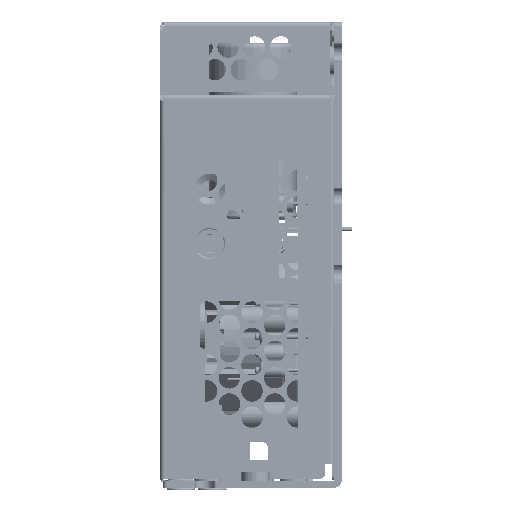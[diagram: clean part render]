
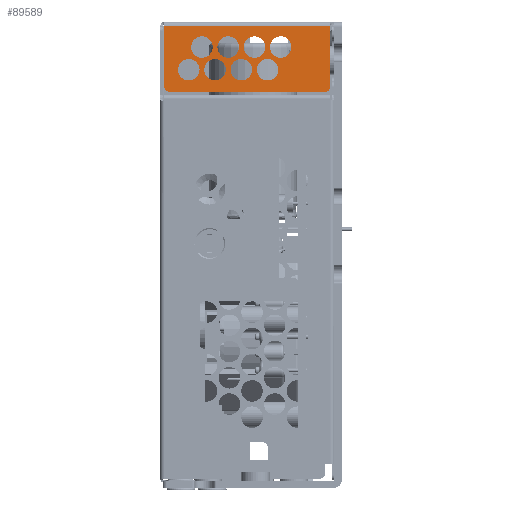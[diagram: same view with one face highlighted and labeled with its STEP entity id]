
A CAD part, left-side view. The second image highlights one B-rep face of the part: STEP entity #89589.
In plain terms, the highlighted planar face has unit normal (-1, 0, 0) as drawn and (0, 1, 0) by its records, which use the part's own axes.
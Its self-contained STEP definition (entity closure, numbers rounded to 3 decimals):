
#71130=DIRECTION('',(0.,0.,-1.));
#71131=VECTOR('',#71130,34.7);
#71132=CARTESIAN_POINT('',(95.,72.,35.6));
#71133=LINE('',#71132,#71131);
#71158=CARTESIAN_POINT('',(82.3,72.,1.9));
#71159=DIRECTION('',(0.,1.,0.));
#71160=DIRECTION('',(0.,0.,-1.));
#71161=AXIS2_PLACEMENT_3D('',#71158,#71159,#71160);
#71163=DIRECTION('',(-1.,0.,0.));
#71164=VECTOR('',#71163,12.4);
#71165=CARTESIAN_POINT('',(94.7,72.,0.9));
#71166=LINE('',#71165,#71164);
#71167=DIRECTION('',(-1.,0.,0.));
#71168=VECTOR('',#71167,0.3);
#71169=CARTESIAN_POINT('',(95.,72.,0.9));
#71170=LINE('',#71169,#71168);
#71171=DIRECTION('',(-1.,0.,0.));
#71172=VECTOR('',#71171,0.129);
#71173=CARTESIAN_POINT('',(95.,72.,35.6));
#71174=LINE('',#71173,#71172);
#71175=DIRECTION('',(1.,0.,0.));
#71176=VECTOR('',#71175,12.571);
#71177=CARTESIAN_POINT('',(82.3,72.,35.6));
#71178=LINE('',#71177,#71176);
#71179=CARTESIAN_POINT('',(82.3,72.,34.6));
#71180=DIRECTION('',(0.,1.,0.));
#71181=DIRECTION('',(-1.,0.,0.));
#71182=AXIS2_PLACEMENT_3D('',#71179,#71180,#71181);
#71184=DIRECTION('',(0.,0.,1.));
#71185=VECTOR('',#71184,32.7);
#71186=CARTESIAN_POINT('',(81.3,72.,1.9));
#71187=LINE('',#71186,#71185);
#71188=CARTESIAN_POINT('',(85.9,72.,6.));
#71189=DIRECTION('',(0.,1.,0.));
#71190=DIRECTION('',(-1.,0.,0.));
#71191=AXIS2_PLACEMENT_3D('',#71188,#71189,#71190);
#71193=CARTESIAN_POINT('',(85.9,72.,6.));
#71194=DIRECTION('',(0.,1.,0.));
#71195=DIRECTION('',(1.,0.,0.));
#71196=AXIS2_PLACEMENT_3D('',#71193,#71194,#71195);
#71198=CARTESIAN_POINT('',(85.9,72.,11.5));
#71199=DIRECTION('',(0.,1.,0.));
#71200=DIRECTION('',(-1.,0.,0.));
#71201=AXIS2_PLACEMENT_3D('',#71198,#71199,#71200);
#71203=CARTESIAN_POINT('',(85.9,72.,11.5));
#71204=DIRECTION('',(0.,1.,0.));
#71205=DIRECTION('',(1.,0.,0.));
#71206=AXIS2_PLACEMENT_3D('',#71203,#71204,#71205);
#71208=CARTESIAN_POINT('',(85.9,72.,17.));
#71209=DIRECTION('',(0.,1.,0.));
#71210=DIRECTION('',(-1.,0.,0.));
#71211=AXIS2_PLACEMENT_3D('',#71208,#71209,#71210);
#71213=CARTESIAN_POINT('',(85.9,72.,17.));
#71214=DIRECTION('',(0.,1.,0.));
#71215=DIRECTION('',(1.,0.,0.));
#71216=AXIS2_PLACEMENT_3D('',#71213,#71214,#71215);
#71218=CARTESIAN_POINT('',(85.9,72.,22.5));
#71219=DIRECTION('',(0.,1.,0.));
#71220=DIRECTION('',(-1.,0.,0.));
#71221=AXIS2_PLACEMENT_3D('',#71218,#71219,#71220);
#71223=CARTESIAN_POINT('',(85.9,72.,22.5));
#71224=DIRECTION('',(0.,1.,0.));
#71225=DIRECTION('',(1.,0.,0.));
#71226=AXIS2_PLACEMENT_3D('',#71223,#71224,#71225);
#71228=CARTESIAN_POINT('',(90.65,72.,8.751));
#71229=DIRECTION('',(0.,1.,0.));
#71230=DIRECTION('',(-1.,0.,0.));
#71231=AXIS2_PLACEMENT_3D('',#71228,#71229,#71230);
#71233=CARTESIAN_POINT('',(90.65,72.,8.751));
#71234=DIRECTION('',(0.,1.,0.));
#71235=DIRECTION('',(1.,0.,0.));
#71236=AXIS2_PLACEMENT_3D('',#71233,#71234,#71235);
#71238=CARTESIAN_POINT('',(90.65,72.,14.251));
#71239=DIRECTION('',(0.,1.,0.));
#71240=DIRECTION('',(-1.,0.,0.));
#71241=AXIS2_PLACEMENT_3D('',#71238,#71239,#71240);
#71243=CARTESIAN_POINT('',(90.65,72.,14.251));
#71244=DIRECTION('',(0.,1.,0.));
#71245=DIRECTION('',(1.,0.,0.));
#71246=AXIS2_PLACEMENT_3D('',#71243,#71244,#71245);
#71248=CARTESIAN_POINT('',(90.65,72.,19.751));
#71249=DIRECTION('',(0.,1.,0.));
#71250=DIRECTION('',(-1.,0.,0.));
#71251=AXIS2_PLACEMENT_3D('',#71248,#71249,#71250);
#71253=CARTESIAN_POINT('',(90.65,72.,19.751));
#71254=DIRECTION('',(0.,1.,0.));
#71255=DIRECTION('',(1.,0.,0.));
#71256=AXIS2_PLACEMENT_3D('',#71253,#71254,#71255);
#71258=CARTESIAN_POINT('',(90.65,72.,25.251));
#71259=DIRECTION('',(0.,1.,0.));
#71260=DIRECTION('',(-1.,0.,0.));
#71261=AXIS2_PLACEMENT_3D('',#71258,#71259,#71260);
#71263=CARTESIAN_POINT('',(90.65,72.,25.251));
#71264=DIRECTION('',(0.,1.,0.));
#71265=DIRECTION('',(1.,0.,0.));
#71266=AXIS2_PLACEMENT_3D('',#71263,#71264,#71265);
#74570=CARTESIAN_POINT('',(94.871,72.,35.6));
#74572=VERTEX_POINT('',#74570);
#74604=CARTESIAN_POINT('',(95.,72.,35.6));
#74605=CARTESIAN_POINT('',(95.,72.,0.9));
#74606=VERTEX_POINT('',#74604);
#74607=VERTEX_POINT('',#74605);
#74612=CARTESIAN_POINT('',(94.7,72.,0.9));
#74613=VERTEX_POINT('',#74612);
#74696=CARTESIAN_POINT('',(82.3,72.,0.9));
#74697=VERTEX_POINT('',#74696);
#74698=CARTESIAN_POINT('',(81.3,72.,1.9));
#74699=VERTEX_POINT('',#74698);
#74704=CARTESIAN_POINT('',(81.3,72.,34.6));
#74705=VERTEX_POINT('',#74704);
#74706=CARTESIAN_POINT('',(82.3,72.,35.6));
#74707=VERTEX_POINT('',#74706);
#74844=CARTESIAN_POINT('',(83.65,72.,6.));
#74845=CARTESIAN_POINT('',(88.15,72.,6.));
#74846=VERTEX_POINT('',#74844);
#74847=VERTEX_POINT('',#74845);
#74852=CARTESIAN_POINT('',(83.65,72.,11.5));
#74853=CARTESIAN_POINT('',(88.15,72.,11.5));
#74854=VERTEX_POINT('',#74852);
#74855=VERTEX_POINT('',#74853);
#74860=CARTESIAN_POINT('',(83.65,72.,17.));
#74861=CARTESIAN_POINT('',(88.15,72.,17.));
#74862=VERTEX_POINT('',#74860);
#74863=VERTEX_POINT('',#74861);
#74868=CARTESIAN_POINT('',(83.65,72.,22.5));
#74869=CARTESIAN_POINT('',(88.15,72.,22.5));
#74870=VERTEX_POINT('',#74868);
#74871=VERTEX_POINT('',#74869);
#74876=CARTESIAN_POINT('',(88.4,72.,8.751));
#74877=CARTESIAN_POINT('',(92.9,72.,8.751));
#74878=VERTEX_POINT('',#74876);
#74879=VERTEX_POINT('',#74877);
#74884=CARTESIAN_POINT('',(88.4,72.,14.251));
#74885=CARTESIAN_POINT('',(92.9,72.,14.251));
#74886=VERTEX_POINT('',#74884);
#74887=VERTEX_POINT('',#74885);
#74892=CARTESIAN_POINT('',(88.4,72.,19.751));
#74893=CARTESIAN_POINT('',(92.9,72.,19.751));
#74894=VERTEX_POINT('',#74892);
#74895=VERTEX_POINT('',#74893);
#74900=CARTESIAN_POINT('',(88.4,72.,25.251));
#74901=CARTESIAN_POINT('',(92.9,72.,25.251));
#74902=VERTEX_POINT('',#74900);
#74903=VERTEX_POINT('',#74901);
#89519=CARTESIAN_POINT('',(95.3,72.,27.355));
#89520=DIRECTION('',(0.,1.,0.));
#89521=DIRECTION('',(0.,0.,1.));
#89522=AXIS2_PLACEMENT_3D('',#89519,#89520,#89521);
#89523=PLANE('',#89522);
#89525=ORIENTED_EDGE('',*,*,#89524,.F.);
#89527=ORIENTED_EDGE('',*,*,#89526,.F.);
#89529=ORIENTED_EDGE('',*,*,#89528,.F.);
#89530=ORIENTED_EDGE('',*,*,#89506,.F.);
#89532=ORIENTED_EDGE('',*,*,#89531,.T.);
#89534=ORIENTED_EDGE('',*,*,#89533,.F.);
#89536=ORIENTED_EDGE('',*,*,#89535,.F.);
#89538=ORIENTED_EDGE('',*,*,#89537,.F.);
#89539=EDGE_LOOP('',(#89525,#89527,#89529,#89530,#89532,#89534,#89536,#89538));
#89540=FACE_OUTER_BOUND('',#89539,.F.);
#89542=ORIENTED_EDGE('',*,*,#89541,.T.);
#89544=ORIENTED_EDGE('',*,*,#89543,.T.);
#89545=EDGE_LOOP('',(#89542,#89544));
#89546=FACE_BOUND('',#89545,.F.);
#89548=ORIENTED_EDGE('',*,*,#89547,.T.);
#89550=ORIENTED_EDGE('',*,*,#89549,.T.);
#89551=EDGE_LOOP('',(#89548,#89550));
#89552=FACE_BOUND('',#89551,.F.);
#89554=ORIENTED_EDGE('',*,*,#89553,.T.);
#89556=ORIENTED_EDGE('',*,*,#89555,.T.);
#89557=EDGE_LOOP('',(#89554,#89556));
#89558=FACE_BOUND('',#89557,.F.);
#89560=ORIENTED_EDGE('',*,*,#89559,.T.);
#89562=ORIENTED_EDGE('',*,*,#89561,.T.);
#89563=EDGE_LOOP('',(#89560,#89562));
#89564=FACE_BOUND('',#89563,.F.);
#89566=ORIENTED_EDGE('',*,*,#89565,.T.);
#89568=ORIENTED_EDGE('',*,*,#89567,.T.);
#89569=EDGE_LOOP('',(#89566,#89568));
#89570=FACE_BOUND('',#89569,.F.);
#89572=ORIENTED_EDGE('',*,*,#89571,.T.);
#89574=ORIENTED_EDGE('',*,*,#89573,.T.);
#89575=EDGE_LOOP('',(#89572,#89574));
#89576=FACE_BOUND('',#89575,.F.);
#89578=ORIENTED_EDGE('',*,*,#89577,.T.);
#89580=ORIENTED_EDGE('',*,*,#89579,.T.);
#89581=EDGE_LOOP('',(#89578,#89580));
#89582=FACE_BOUND('',#89581,.F.);
#89584=ORIENTED_EDGE('',*,*,#89583,.T.);
#89586=ORIENTED_EDGE('',*,*,#89585,.T.);
#89587=EDGE_LOOP('',(#89584,#89586));
#89588=FACE_BOUND('',#89587,.F.);
#71162=CIRCLE('',#71161,1.);
#71183=CIRCLE('',#71182,1.);
#71192=CIRCLE('',#71191,2.25);
#71197=CIRCLE('',#71196,2.25);
#71202=CIRCLE('',#71201,2.25);
#71207=CIRCLE('',#71206,2.25);
#71212=CIRCLE('',#71211,2.25);
#71217=CIRCLE('',#71216,2.25);
#71222=CIRCLE('',#71221,2.25);
#71227=CIRCLE('',#71226,2.25);
#71232=CIRCLE('',#71231,2.25);
#71237=CIRCLE('',#71236,2.25);
#71242=CIRCLE('',#71241,2.25);
#71247=CIRCLE('',#71246,2.25);
#71252=CIRCLE('',#71251,2.25);
#71257=CIRCLE('',#71256,2.25);
#71262=CIRCLE('',#71261,2.25);
#71267=CIRCLE('',#71266,2.25);
#89506=EDGE_CURVE('',#74606,#74607,#71133,.T.);
#89524=EDGE_CURVE('',#74697,#74699,#71162,.T.);
#89526=EDGE_CURVE('',#74613,#74697,#71166,.T.);
#89528=EDGE_CURVE('',#74607,#74613,#71170,.T.);
#89531=EDGE_CURVE('',#74606,#74572,#71174,.T.);
#89533=EDGE_CURVE('',#74707,#74572,#71178,.T.);
#89535=EDGE_CURVE('',#74705,#74707,#71183,.T.);
#89537=EDGE_CURVE('',#74699,#74705,#71187,.T.);
#89541=EDGE_CURVE('',#74846,#74847,#71192,.T.);
#89543=EDGE_CURVE('',#74847,#74846,#71197,.T.);
#89547=EDGE_CURVE('',#74854,#74855,#71202,.T.);
#89549=EDGE_CURVE('',#74855,#74854,#71207,.T.);
#89553=EDGE_CURVE('',#74862,#74863,#71212,.T.);
#89555=EDGE_CURVE('',#74863,#74862,#71217,.T.);
#89559=EDGE_CURVE('',#74870,#74871,#71222,.T.);
#89561=EDGE_CURVE('',#74871,#74870,#71227,.T.);
#89565=EDGE_CURVE('',#74878,#74879,#71232,.T.);
#89567=EDGE_CURVE('',#74879,#74878,#71237,.T.);
#89571=EDGE_CURVE('',#74886,#74887,#71242,.T.);
#89573=EDGE_CURVE('',#74887,#74886,#71247,.T.);
#89577=EDGE_CURVE('',#74894,#74895,#71252,.T.);
#89579=EDGE_CURVE('',#74895,#74894,#71257,.T.);
#89583=EDGE_CURVE('',#74902,#74903,#71262,.T.);
#89585=EDGE_CURVE('',#74903,#74902,#71267,.T.);
#89589=ADVANCED_FACE('',(#89540,#89546,#89552,#89558,#89564,#89570,#89576,
#89582,#89588),#89523,.T.);
